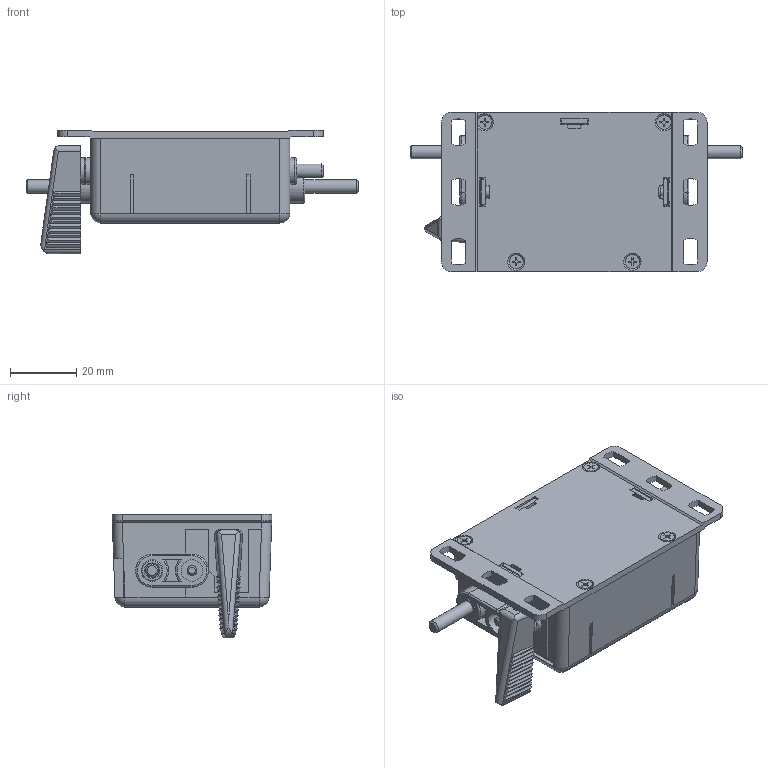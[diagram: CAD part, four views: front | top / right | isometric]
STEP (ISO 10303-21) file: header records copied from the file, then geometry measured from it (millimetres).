
FILE_DESCRIPTION( ( 'Unknown' ), '1' );
FILE_NAME( 'F:/Produkte/M 310/M 310.010Axxx.stp', 'Unknown', ( 'Unknown' ), ( 'Unknown' ), 'PSStep 19.0.9', 'Unknown', ' ' );
FILE_SCHEMA( ( 'AUTOMOTIVE_DESIGN { 1 0 10303 214 1 1 1 1 }' ) );
Length unit declared in the file: millimetre
Products named in the file (11): Assem1; 02500370; 15700063; 15700063-oa0; 14200266; 00900986; 02100393; 00900983; 00900988; 03600138; 20600022Y03
Assembly tree (13 placements, depth 2):
  Assem1
    02500370
    15700063
    15700063-oa0
    14200266
    00900986
    02100393
    00900983
    00900988
    03600138
    20600022Y03  x4
Bounding box: 100 x 48 x 37.25 mm (x, y, z)
Volume: 28925.4 mm3; surface area: 33211.5 mm2
Topology: 13 solids, 13 shells, 699 faces, 1788 edges, 1145 vertices
Faces by surface type: plane 504, cylinder 149, cone 28, torus 14, sphere 4
Full cylindrical faces by diameter (mm): 1.2 x2, 1.5 x2, 1.8 x4, 2 x2, 2.2 x5, 2.3 x1, 2.5 x4, 2.6 x4, 3 x4, 4 x3, 4.5 x2, 5 x4, 6.5 x6, 8 x3
Entity records: 23466 total; most frequent: CARTESIAN_POINT 3489, DIRECTION 3072, ORIENTED_EDGE 3002, EDGE_CURVE 1501, LINE 1140, VECTOR 1140, VERTEX_POINT 1001, AXIS2_PLACEMENT_3D 966
